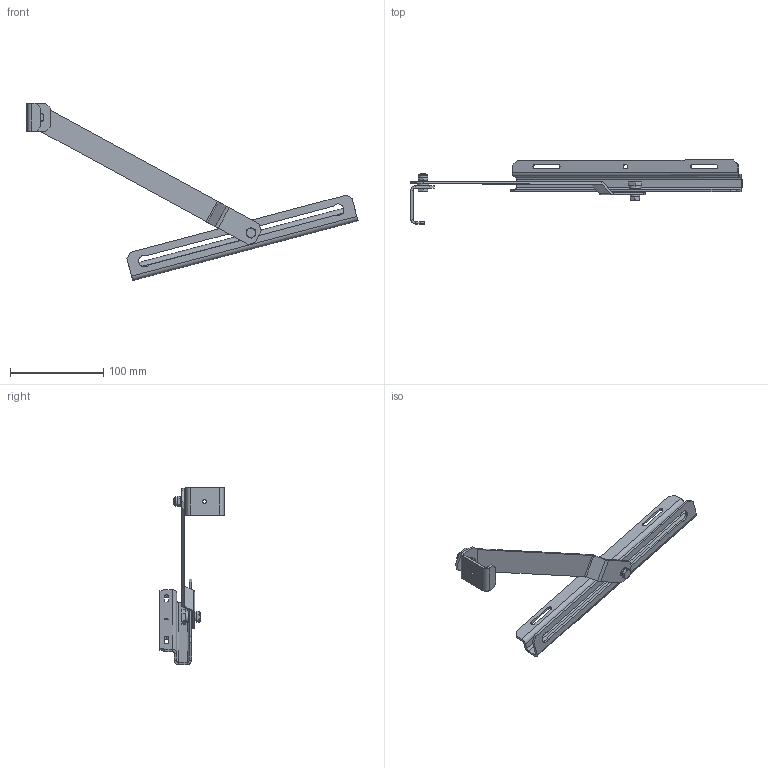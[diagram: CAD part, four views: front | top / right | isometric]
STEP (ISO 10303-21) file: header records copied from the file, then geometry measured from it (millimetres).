
FILE_DESCRIPTION (( 'STEP AP203' ), '1' );
FILE_NAME ('SD 1 ÑÁ Îãðàíè÷èòåëü äâåðíîé.STEP', '2013-01-11T13:00:51', ( 'Àëåêñàíäð' ), ( 'Ïðîâåíòî' ), 'SwSTEP 2.0', 'SolidWorks 2012', '' );
FILE_SCHEMA (( 'CONFIG_CONTROL_DESIGN' ));
Length unit declared in the file: millimetre
Products named in the file (9): SD 00.001 Äåðæàòåëü; ﾘ琺矜 胙魵褞浯 ﾌ6 DIN 7980_Spring washer DIN 128 - A6; SD 00.005 Êðîíøòåéí îãðàíè÷èòåëÿ; SD 2 00.03 Âòóëêà äâåðíîãî îãðàíè÷èòåëÿ; SD 00.002 逄闉; SD 00.003 Ãàéêà ñïåöèàëüíàÿ; Áîëò îö. Ì6x16 DIN 933_ISO 4017 - M6 x 16-C; SD 1 ÑÁ Îãðàíè÷èòåëü äâåðíîé; Ãàéêà ñàìîêîíòðÿùàÿñÿ ñ íåéëîíîâûì êîëüöîì Ì6 DIN985
Assembly tree (9 placements, depth 2):
  SD 1 ÑÁ Îãðàíè÷èòåëü äâåðíîé
    SD 00.001 Äåðæàòåëü
    SD 00.002 逄闉
    SD 00.003 Ãàéêà ñïåöèàëüíàÿ
    SD 2 00.03 Âòóëêà äâåðíîãî îãðàíè÷èòåëÿ
    SD 00.005 Êðîíøòåéí îãðàíè÷èòåëÿ
    ﾘ琺矜 胙魵褞浯 ﾌ6 DIN 7980_Spring washer DIN 128 - A6
    Áîëò îö. Ì6x16 DIN 933_ISO 4017 - M6 x 16-C  x2
    Ãàéêà ñàìîêîíòðÿùàÿñÿ ñ íåéëîíîâûì êîëüöîì Ì6 DIN985
Bounding box: 356.21 x 68.86 x 190.12 mm (x, y, z)
Volume: 63919.8 mm3; surface area: 56849.3 mm2
Topology: 9 solids, 9 shells, 244 faces, 539 edges, 318 vertices
Faces by surface type: plane 133, cylinder 63, cone 40, torus 8
Entity records: 6998 total; most frequent: CARTESIAN_POINT 1190, DIRECTION 1051, ORIENTED_EDGE 958, EDGE_CURVE 479, AXIS2_PLACEMENT_3D 385, VERTEX_POINT 284, VECTOR 281, LINE 281
